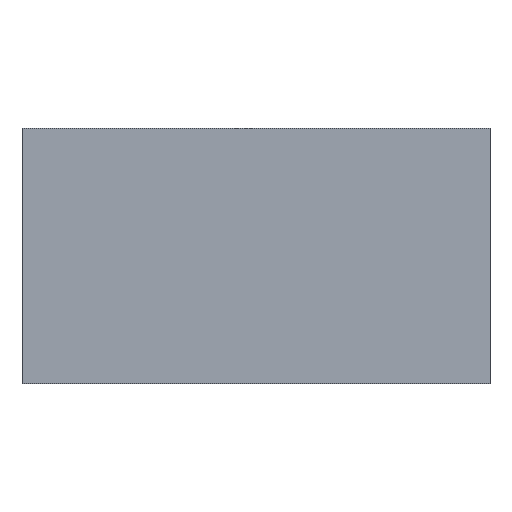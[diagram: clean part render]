
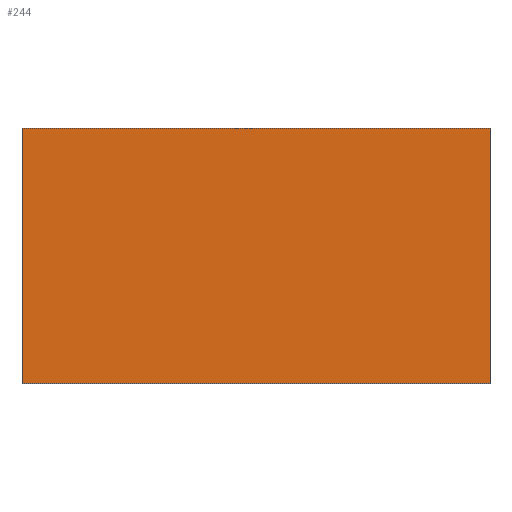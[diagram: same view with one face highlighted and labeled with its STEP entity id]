
A CAD part, top view. The second image highlights one B-rep face of the part: STEP entity #244.
In plain terms, the highlighted planar face has unit normal (0, 0, 1).
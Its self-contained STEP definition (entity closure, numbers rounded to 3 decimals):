
#6 = ORIENTED_EDGE ( 'NONE', *, *, #88, .T. ) ;
#13 = CARTESIAN_POINT ( 'NONE',  ( -5.5, 6., 5. ) ) ;
#22 = LINE ( 'NONE', #119, #308 ) ;
#29 = VECTOR ( 'NONE', #282, 1000. ) ;
#33 = ORIENTED_EDGE ( 'NONE', *, *, #329, .T. ) ;
#38 = EDGE_LOOP ( 'NONE', ( #33, #223, #91, #6 ) ) ;
#41 = DIRECTION ( 'NONE',  ( 0., 1., 0. ) ) ;
#59 = VERTEX_POINT ( 'NONE', #64 ) ;
#64 = CARTESIAN_POINT ( 'NONE',  ( -5.5, 6., 5. ) ) ;
#75 = CARTESIAN_POINT ( 'NONE',  ( 5.5, 6., 5. ) ) ;
#88 = EDGE_CURVE ( 'NONE', #59, #210, #243, .T. ) ;
#91 = ORIENTED_EDGE ( 'NONE', *, *, #172, .T. ) ;
#114 = DIRECTION ( 'NONE',  ( -1., 0., 0. ) ) ;
#115 = CARTESIAN_POINT ( 'NONE',  ( 5.5, 6., 5. ) ) ;
#119 = CARTESIAN_POINT ( 'NONE',  ( -5.5, 0., 5. ) ) ;
#120 = VECTOR ( 'NONE', #114, 1000. ) ;
#143 = EDGE_CURVE ( 'NONE', #328, #165, #368, .T. ) ;
#165 = VERTEX_POINT ( 'NONE', #75 ) ;
#172 = EDGE_CURVE ( 'NONE', #165, #59, #318, .T. ) ;
#174 = PLANE ( 'NONE',  #175 ) ;
#175 = AXIS2_PLACEMENT_3D ( 'NONE', #345, #212, #234 ) ;
#209 = FACE_OUTER_BOUND ( 'NONE', #38, .T. ) ;
#210 = VERTEX_POINT ( 'NONE', #321 ) ;
#212 = DIRECTION ( 'NONE',  ( 0., 0., 1. ) ) ;
#223 = ORIENTED_EDGE ( 'NONE', *, *, #143, .T. ) ;
#234 = DIRECTION ( 'NONE',  ( 1., 0., 0. ) ) ;
#237 = DIRECTION ( 'NONE',  ( 1., 0., 0. ) ) ;
#243 = LINE ( 'NONE', #13, #29 ) ;
#244 = ADVANCED_FACE ( 'NONE', ( #209 ), #174, .T. ) ;
#262 = CARTESIAN_POINT ( 'NONE',  ( 5.5, 0., 5. ) ) ;
#278 = CARTESIAN_POINT ( 'NONE',  ( 5.5, 0., 5. ) ) ;
#282 = DIRECTION ( 'NONE',  ( 0., -1., 0. ) ) ;
#308 = VECTOR ( 'NONE', #237, 1000. ) ;
#318 = LINE ( 'NONE', #115, #120 ) ;
#321 = CARTESIAN_POINT ( 'NONE',  ( -5.5, 0., 5. ) ) ;
#328 = VERTEX_POINT ( 'NONE', #262 ) ;
#329 = EDGE_CURVE ( 'NONE', #210, #328, #22, .T. ) ;
#345 = CARTESIAN_POINT ( 'NONE',  ( 0., 0., 5. ) ) ;
#357 = VECTOR ( 'NONE', #41, 1000. ) ;
#368 = LINE ( 'NONE', #278, #357 ) ;
